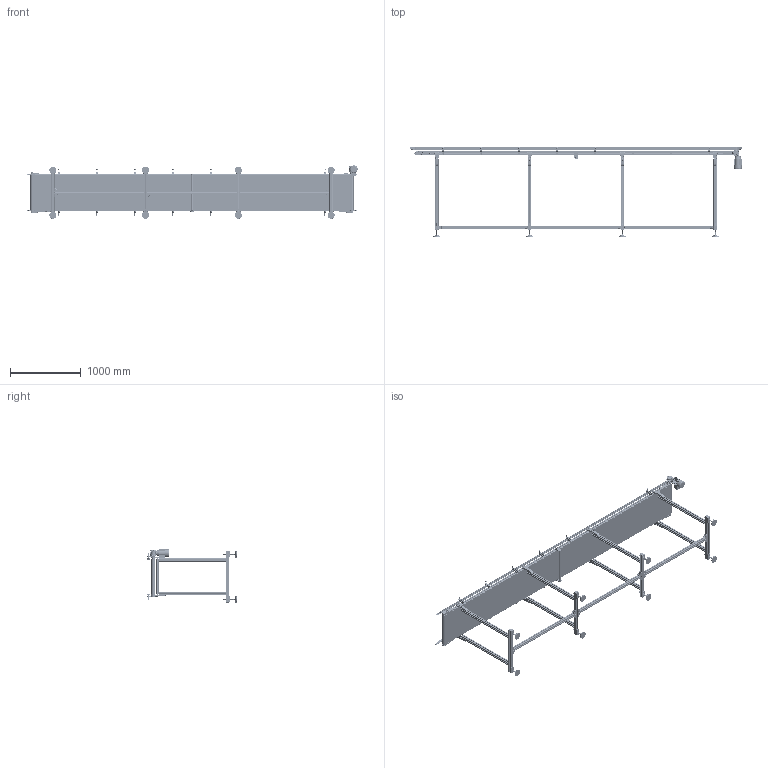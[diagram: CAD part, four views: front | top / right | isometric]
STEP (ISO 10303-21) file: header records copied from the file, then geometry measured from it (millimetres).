
FILE_DESCRIPTION (( 'STEP AP203' ), '1' );
FILE_NAME ('NASTRO_RETTILINEO_TAPPETO.step', '2026-04-22T13:48:16', ( 'Utente Windows' ), ( '' ), 'SwSTEP 2.0', 'SolidWorks 2024', '' );
FILE_SCHEMA (( 'CONFIG_CONTROL_DESIGN' ));
Length unit declared in the file: millimetre
Products named in the file (70): 084.711.005; 084.711.006_L1; 084.303.001; 084.305.003-1; 084.803.018; RULLO_REGGITAPPETO; FLANGIA_GAMBA_50; 084.807.003_084.807.003<A macchina>; VITE_DADO_M5X12; VITI TSEI UNI 5933_M4x10 UNI 5933; TRAVERSA_50_Default<A macchina>; 084.802.071; 084.711.006_PER CAVA 8 PERNO ALTO 1; SPONDA_Default<A macchina>; GRANI A PUNTA CONICA UNI 5927_M6x16 UNI 5927; 084.802.061; 084.802.017_084.802.017; LAMIERA_STANDARD; 084.201.012; 2010.000.068_L; TAPPETO_STANDARD_CINGHIE; 084.712.005; VITE_RONDELLA_M8X20; 084.302.000 DADI ALUSIC 13x13-1_084.302.004; 084.711.010; 084.302.000 DADI ALUSIC 13x13-1_084.302.009; DADI ESAGONALI NORMALI UNI 5588_M6 UNI 5588; CH03P_DX; ANGOLARE_43; RULLO_50_TRAINO_CINGHIE_30_DX; VITI TCEI UNI 5931_M6x12 UNI 5931; VITI TSEI UNI 5933_M4x12 UNI 5933; 084.802.028; 084.302.000 DADI ALUSIC 13x13_084.302.004; BLOCCO_REGGITAPPETO; 084.201.012-1; 2010.000.069; 2010.000.070; VITI TE UNI 5739_M6x16 UNI 5739; VITI TSEI UNI 5933_M5x12 UNI 5933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
Assembly tree (238 placements, depth 4):
  NASTRO_RETTILINEO_TAPPETO
    TAPPETO_STANDARD_CINGHIE
    TELAIO_50_CINGHIE_Default<A macchina>
    LAMIERA_STANDARD  x2
    RULLO_50_TRAINO_CINGHIE_30_DX
    BLOCCO_TRAINO_50_STANDARD_30_DX
      084.807.003_084.807.003<A macchina>
      084.802.017_084.802.017
      084.301.000 VITI ALUSIC_084.301.003  x2
      084.302.000 DADI ALUSIC 13x13-1_084.302.004  x2
      BLOCCO_BRACCIO_CH03P_VF30P
        084.808.012
        084.802.062
        084.802.061
        VITI TE UNI 5739_M6x16 UNI 5739  x4
        084.803.018
        VITI TCEI UNI 5931_M6x12 UNI 5931  x4
      084.802.065_Default<A macchina>
      VITI TCEI UNI 5931_M4x25 UNI 5931  x2
    BLOCCO_TRAINO_50_STANDARD
      084.807.002_084.807.002
      084.802.017_084.802.017
      084.301.000 VITI ALUSIC_084.301.003  x2
      084.302.000 DADI ALUSIC 13x13-1_084.302.004  x2
      VITI TSEI UNI 5933_M4x12 UNI 5933  x4
      084.802.071
      VITI TSEI UNI 5933 INOX_0412UNI5933A2  x2
    RULLO_50_RINVIO_CINGHIE
    BLOCCO_RINVIO_50_STANDARD  x2
      084.807.002_084.807.002
      084.802.017_084.802.017
      084.802.008
      084.301.000 VITI ALUSIC_084.301.003
      084.302.000 DADI ALUSIC 13x13_084.302.004
      VITI TSEI UNI 5933_M4x10 UNI 5933
      084.802.071
    SPONDA_Default<A macchina>  x2
    084.711.006_PER CAVA 8 PERNO ALTO 1  x12
      084.711.006_L1
      084.711.006_L2
      084.711.007
      084.711.005
      084.711.010
      DADI ESAGONALI NORMALI UNI 5588_M6 UNI 5588
    084.712.005  x4
      084.712.005
      DADI ESAGONALI NORMALI UNI 5588_M6 UNI 5588
      GRANI A PUNTA CONICA UNI 5927_M6x16 UNI 5927
    GAMBE_D50_Default<A macchina>  x4
    FLANGIA_GAMBA_50
      084.302.000 DADI ALUSIC 13x13-1_084.302.004  x4
      RONDELLE UNI 6592_8.4x17 UNI 6592  x3
      084.301.000 VITI ALUSIC_084.301.003  x4
      2010.000.068
        2010.000.068_L
        2010.000.069
        2010.000.070
    FLANGIA_GAMBA_50  x7
      084.302.000 DADI ALUSIC 13x13-1_084.302.004
      RONDELLE UNI 6592_8.4x17 UNI 6592
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Bounding box: 4678.86 x 1272.1 x 751.82 mm (x, y, z)
Volume: 45705637.8 mm3; surface area: 32979609.8 mm2
Topology: 599 solids, 607 shells, 30956 faces, 79726 edges, 50180 vertices
Faces by surface type: plane 12386, cylinder 9932, bspline 3450, cone 2503, torus 2247, sphere 438
Entity records: 284432 total; most frequent: CARTESIAN_POINT 92080, ORIENTED_EDGE 39366, DIRECTION 36218, EDGE_CURVE 19683, VERTEX_POINT 12647, AXIS2_PLACEMENT_3D 12578, LINE 11062, VECTOR 11062
